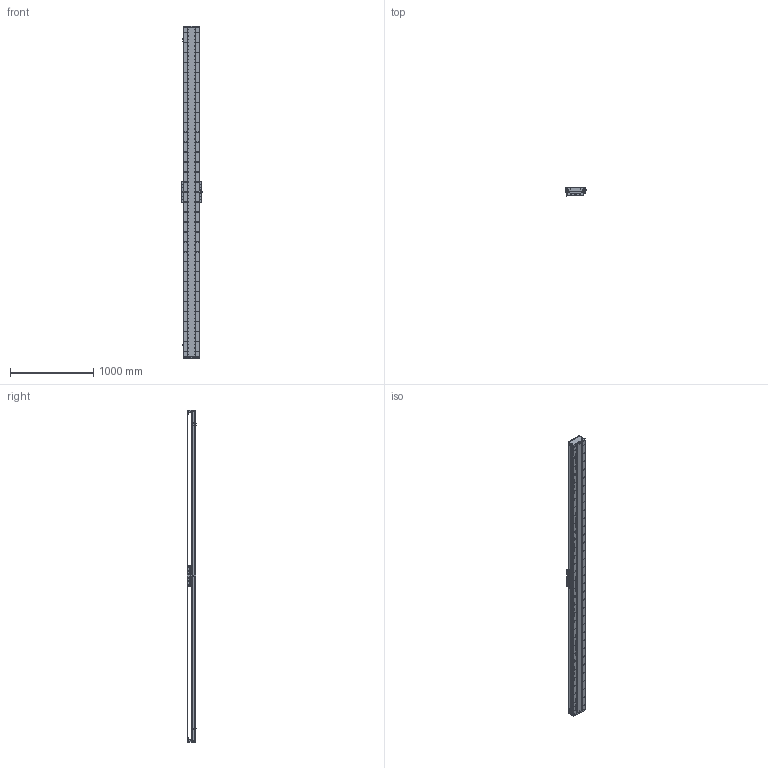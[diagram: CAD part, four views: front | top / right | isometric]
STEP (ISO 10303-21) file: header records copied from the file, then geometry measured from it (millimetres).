
FILE_DESCRIPTION (( 'STEP AP203' ), '1' );
FILE_NAME ('DA-C195-C3-T3660-C010-0.2 眻盄萇儂.STEP', '2025-08-15T01:24:22', ( '' ), ( '' ), 'SwSTEP 2.0', 'SolidWorks 2019', '' );
FILE_SCHEMA (( 'CONFIG_CONTROL_DESIGN' ));
Length unit declared in the file: millimetre
Products named in the file (15): DA165-GYP-00 光电感应片(默认); MS200 棠掑喜S315-T240; 葩璃 DA95-GT-T-00; DA-C195-C3-T3660-C010-0.2 眻盄萇儂; DA195詩湍菜輸; PM-T45ㄗ侂狟ㄘ; DA195詩湍裔啣; DA95-HXJ-00 遣喳砎蝶; LMT黍杅芛; DA195詩湍嶺輸; IU-CU195-L-00 菁釱(L3960); IU-CU195-L 菁釱絳寢; DA195詩湍郪璃; CU195-C3賑輸-俋楷; DA-C195-GD-DB-H-00 傷啣
Assembly tree (29 placements, depth 3):
  DA-C195-C3-T3660-C010-0.2 眻盄萇儂
    DA195詩湍郪璃
      DA195詩湍菜輸  x2
      DA195詩湍裔啣
      DA195詩湍嶺輸  x2
      DA95-HXJ-00 遣喳砎蝶  x8
      DA-C195-GD-DB-H-00 傷啣  x2
    IU-CU195-L 菁釱絳寢
      IU-CU195-L-00 菁釱(L3960)
      葩璃 DA95-GT-T-00  x4
    LMT黍杅芛
    MS200 棠掑喜S315-T240
    PM-T45ㄗ侂狟ㄘ  x3
    DA165-GYP-00 光电感应片(默认)
    CU195-C3賑輸-俋楷
Bounding box: 248 x 115.45 x 4000 mm (x, y, z)
Volume: 22377642.5 mm3; surface area: 6673495.3 mm2
Topology: 86 solids, 118 shells, 4894 faces, 14343 edges, 9121 vertices
Faces by surface type: cylinder 2906, plane 1386, cone 514, torus 52, sphere 36
Entity records: 168571 total; most frequent: CARTESIAN_POINT 49240, ORIENTED_EDGE 25602, DIRECTION 23622, EDGE_CURVE 12801, AXIS2_PLACEMENT_3D 8905, VERTEX_POINT 8323, VECTOR 5812, LINE 5812
